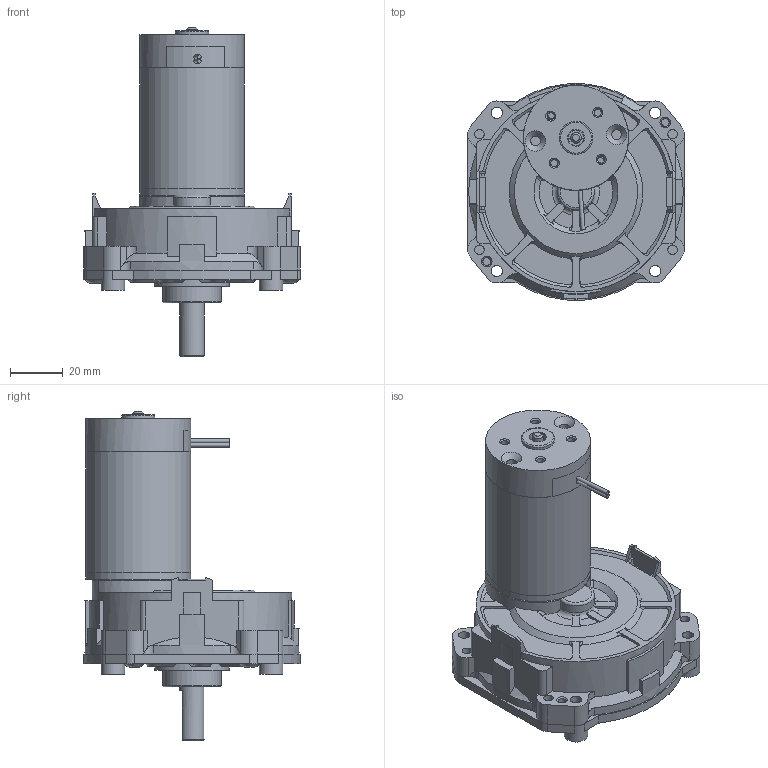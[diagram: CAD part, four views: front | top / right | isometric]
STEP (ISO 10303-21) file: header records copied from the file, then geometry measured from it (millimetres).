
FILE_DESCRIPTION(/* description */ (''),/* implementation_level */ '2;1');
FILE_NAME(/* name */ 'C:\Users\byjeong\Desktop\3D도면\SP44BL.stp',/* time_stamp */ '2015-03-31T15:41:40+09:00',/* author */ ('byjeong'),/* organization */ (''),/* preprocessor_version */ 'ST-DEVELOPER v15.6',/* originating_system */ 'Autodesk Inventor 2015',/* authorisation */ '');
FILE_SCHEMA (('AUTOMOTIVE_DESIGN { 1 0 10303 214 3 1 1 }'));
Length unit declared in the file: millimetre
Products named in the file (10): SP BOX ASSY; DC SP BOX; RM4TYPE_FRONT_HOUSING_; RM44TYPE_SHAFT; RM4TYPE_PIPE_HOUSING_pi40XL45.9; RM4TYPE_BRUSH_BRAKET_LEAD; RM4TYPE_REAR_HOUSING; REAR_HOUSING__ASS'Y_LEAD; RM44ㅁBL; SP BOX ASSY.ipt
Bounding box: 82.6 x 82.32 x 125.47 mm (x, y, z)
Volume: 97720.2 mm3; surface area: 68835 mm2
Topology: 10 solids, 11 shells, 645 faces, 1672 edges, 1093 vertices
Faces by surface type: plane 336, cylinder 186, cone 69, bspline 28, torus 24, sphere 2
Full cylindrical faces by diameter (mm): 1.6 x2, 2.7 x4, 2.8 x4, 3 x14, 3.05 x2, 3.4 x2, 3.5 x2, 3.6 x4, 3.7 x2, 3.969 x1, 4 x5, 4.3 x8, 4.5 x4, 5 x2, 6 x1, 6.5 x1, 6.65 x1, 9 x4, 9.5 x2, 9.54 x1, 10.5 x1, 12.5 x1, 12.7 x3, 14 x1, 14.3 x2, 14.5 x2, 16.6 x1, 17.6 x1, 22.2 x1, 28.5 x1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
Entity records: 20759 total; most frequent: CARTESIAN_POINT 5419, DIRECTION 3126, ORIENTED_EDGE 3038, EDGE_CURVE 1518, AXIS2_PLACEMENT_3D 1237, VERTEX_POINT 1063, EDGE_LOOP 878, LINE 652
